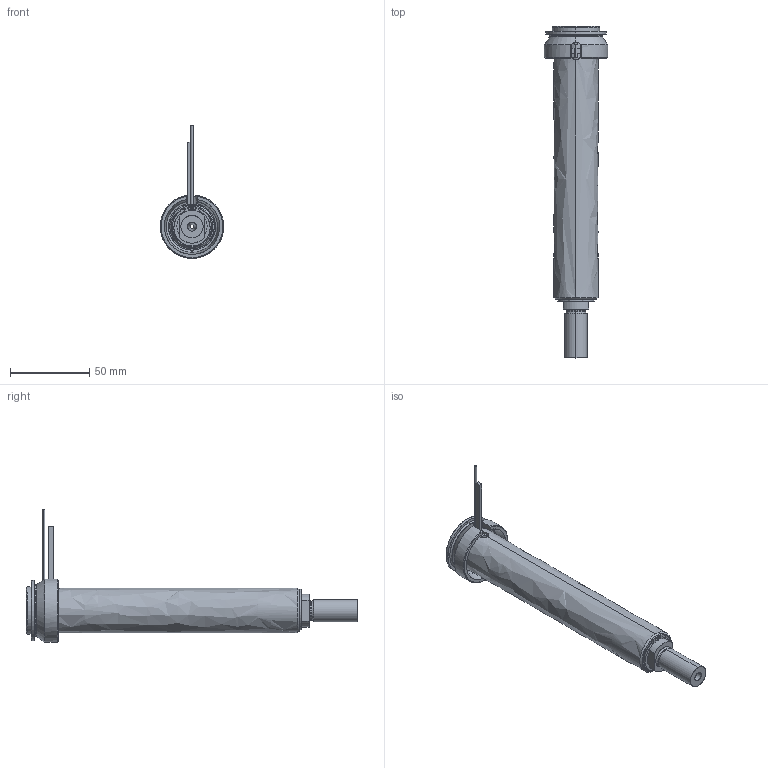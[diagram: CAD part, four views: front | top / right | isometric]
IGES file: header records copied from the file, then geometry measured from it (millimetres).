
Start section: SolidWorks IGES file using analytic representation for surfaces
Global section: file name: C:\Documents and Settings\ws-20\Desktop\TEMPORANEA\UGBE4004-M-A-P-3 [Ød-2.5 P-25 ØC-09].IGS; native system: SolidWorks 2012; preprocessor: SolidWorks 2012; author: ws-20; date: 120306.123804; units: millimetre
Bounding box: 40 x 209.25 x 83.65 mm (x, y, z)
Surface area: 55557 mm2 (no closed solid volume)
Topology: 0 solids, 0 shells, 103 faces, 1697 edges, 1697 vertices
Faces by surface type: revolution 60, bspline 43
